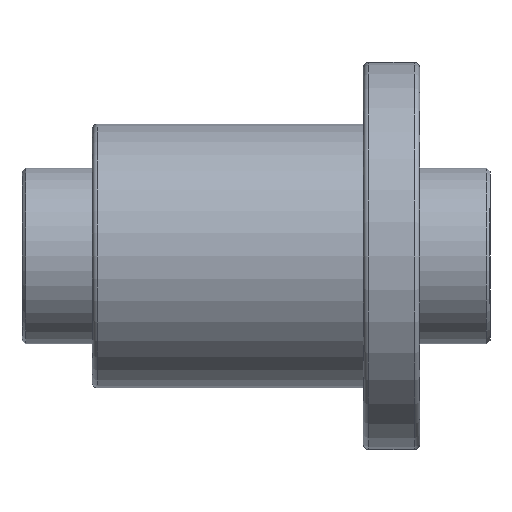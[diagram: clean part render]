
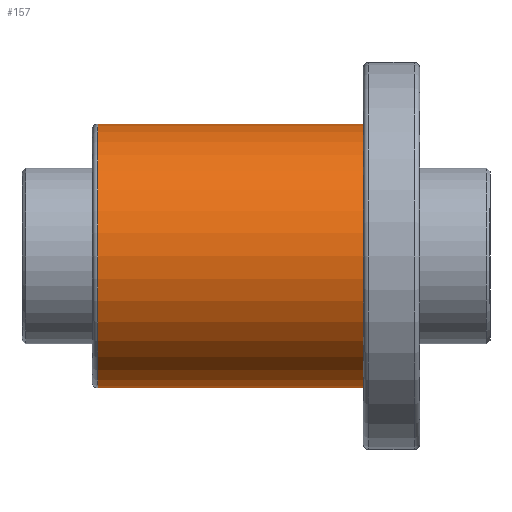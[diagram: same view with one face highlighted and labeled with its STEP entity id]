
A CAD part, front view. The second image highlights one B-rep face of the part: STEP entity #157.
In plain terms, the highlighted cylindrical face has radius 37.5 mm (diameter 75 mm), a full revolution.
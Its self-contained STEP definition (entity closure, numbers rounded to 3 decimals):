
#157=ADVANCED_FACE('',(#235,#236),#175,.T.);
#175=CYLINDRICAL_SURFACE('',#607,37.5);
#235=FACE_BOUND('',#317,.T.);
#236=FACE_BOUND('',#318,.T.);
#317=EDGE_LOOP('',(#399));
#318=EDGE_LOOP('',(#400));
#399=ORIENTED_EDGE('',*,*,#498,.F.);
#400=ORIENTED_EDGE('',*,*,#471,.T.);
#430=VERTEX_POINT('',#809);
#457=VERTEX_POINT('',#874);
#471=EDGE_CURVE('',#430,#430,#512,.T.);
#498=EDGE_CURVE('',#457,#457,#539,.T.);
#512=CIRCLE('',#567,37.5);
#539=CIRCLE('',#605,37.5);
#567=AXIS2_PLACEMENT_3D('',#808,#670,#671);
#605=AXIS2_PLACEMENT_3D('',#873,#746,#747);
#607=AXIS2_PLACEMENT_3D('',#876,#750,#751);
#670=DIRECTION('',(1.,0.,0.));
#671=DIRECTION('',(0.,1.,0.));
#746=DIRECTION('',(1.,0.,0.));
#747=DIRECTION('',(0.,1.,0.));
#750=DIRECTION('',(1.,0.,0.));
#751=DIRECTION('',(0.,1.,0.));
#808=CARTESIAN_POINT('',(-111.5,0.,0.));
#809=CARTESIAN_POINT('',(-111.5,37.5,0.));
#873=CARTESIAN_POINT('',(-36.,0.,0.));
#874=CARTESIAN_POINT('',(-36.,37.5,0.));
#876=CARTESIAN_POINT('',(-133.,0.,0.));
